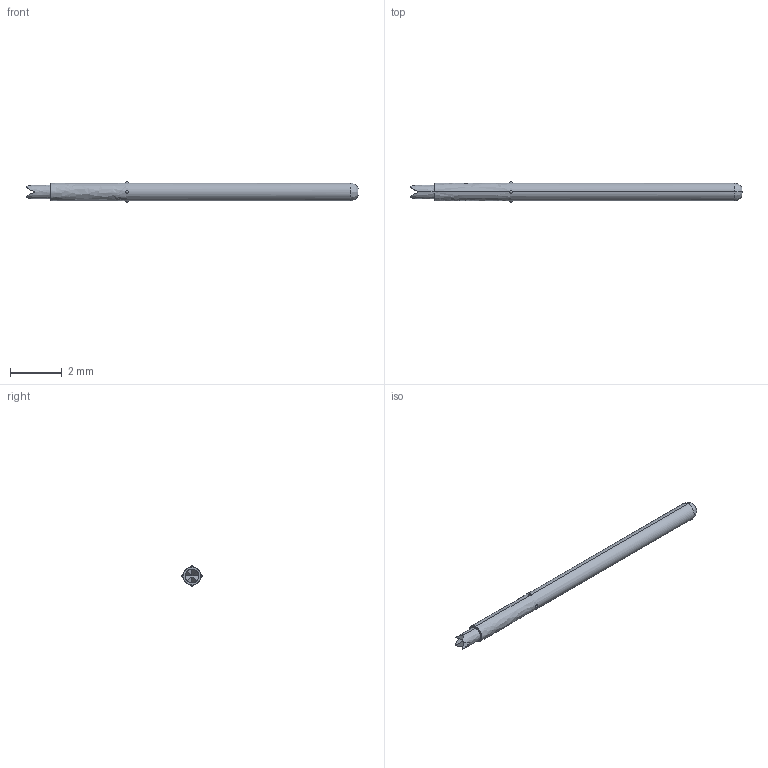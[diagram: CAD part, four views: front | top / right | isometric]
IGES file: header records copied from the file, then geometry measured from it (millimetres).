
Start section: SolidWorks IGES file using analytic representation for surfaces
Global section: file name: O:\PYLON\IGES FILES\P2662B\P2662B-1Q1S FULL.IGS; native system: SolidWorks 2015; preprocessor: SolidWorks 2015; author: kgolden; date: 171019.093819; units: inch
Bounding box: 12.84 x 0.79 x 0.79 mm (x, y, z)
Surface area: 30.2 mm2 (no closed solid volume)
Topology: 0 solids, 0 shells, 26 faces, 222 edges, 206 vertices
Faces by surface type: revolution 14, bspline 12
